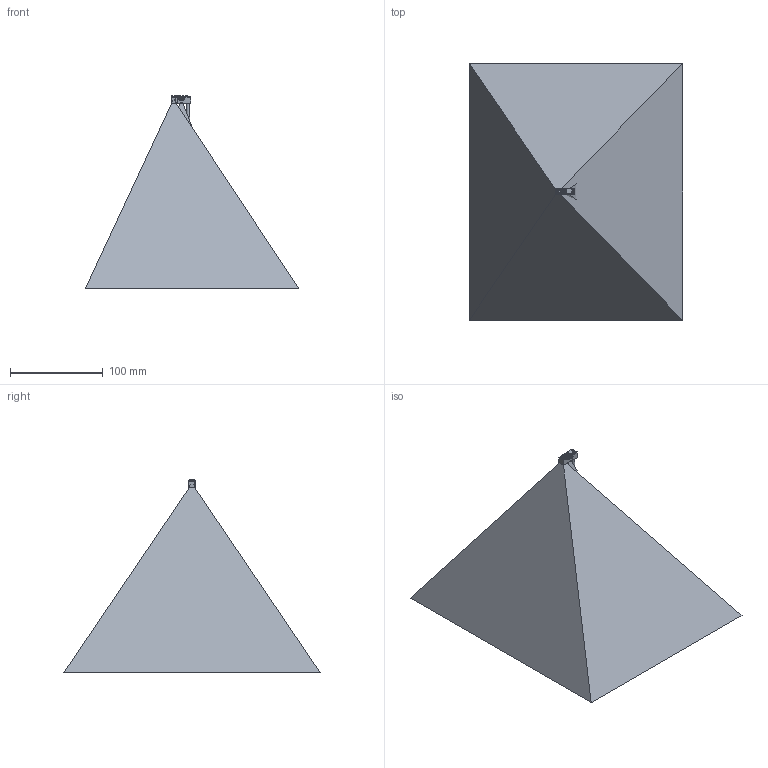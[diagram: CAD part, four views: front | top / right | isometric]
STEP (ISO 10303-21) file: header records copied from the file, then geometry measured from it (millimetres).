
FILE_DESCRIPTION((''),'2;1');
FILE_NAME('RT214-3D-DRAWING','2020-05-06T',('ASUS'),(''),'PRO/ENGINEER BY PARAMETRIC TECHNOLOGY CORPORATION, 2008380','PRO/ENGINEER BY PARAMETRIC TECHNOLOGY CORPORATION, 2008380','');
FILE_SCHEMA(('CONFIG_CONTROL_DESIGN'));
Length unit declared in the file: millimetre
Products named in the file (1): RT214-3D-DRAWING
Bounding box: 230.47 x 276.79 x 208.5 mm (x, y, z)
Surface area: 186115 mm2
Topology: 1 solids, 6 shells, 976 faces, 2647 edges, 1676 vertices
Faces by surface type: plane 784, cylinder 119, bspline 32, cone 31, torus 6, extrusion 4
Full cylindrical faces by diameter (mm): 2.3 x1
Entity records: 34011 total; most frequent: CARTESIAN_POINT 9478, ORIENTED_EDGE 5272, DIRECTION 4729, EDGE_CURVE 2647, VECTOR 1981, LINE 1977, VERTEX_POINT 1676, AXIS2_PLACEMENT_3D 1374
